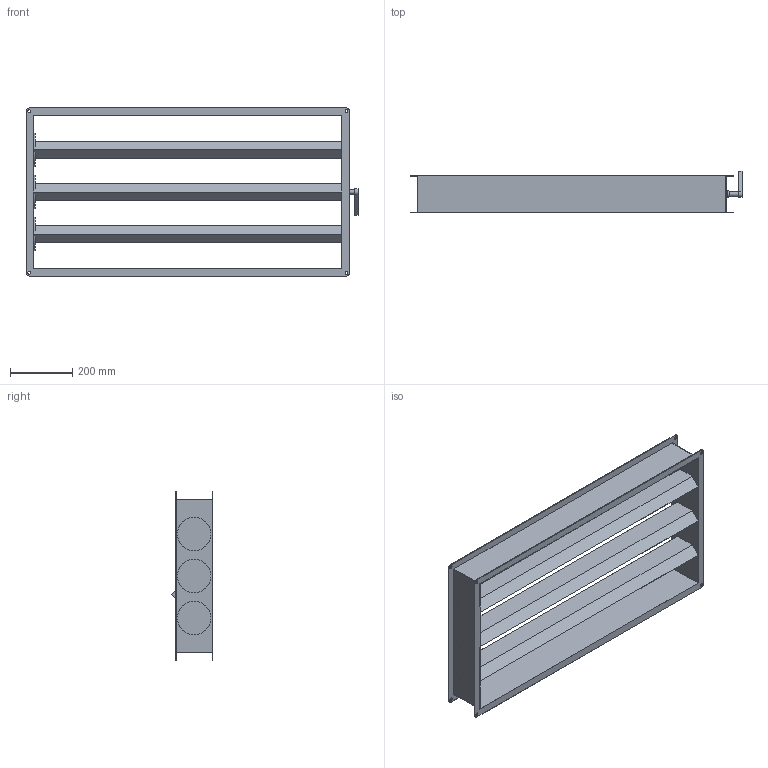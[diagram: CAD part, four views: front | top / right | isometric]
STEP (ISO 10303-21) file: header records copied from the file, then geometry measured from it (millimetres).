
FILE_DESCRIPTION(/* description */ (''),/* implementation_level */ '2;1');
FILE_NAME(/* name */ 'Z:\Output\JVK_100-50-06917-004.stp',/* time_stamp */ '2017-07-11T11:31:07+02:00',/* author */ ('Engineering1'),/* organization */ (''),/* preprocessor_version */ 'ST-DEVELOPER v16.5',/* originating_system */ 'Autodesk Inventor 2017',/* authorisation */ '');
FILE_SCHEMA (('AUTOMOTIVE_DESIGN { 1 0 10303 214 3 1 1 }'));
Length unit declared in the file: millimetre
Products named in the file (1): JVK-1
Bounding box: 1067 x 134.14 x 540 mm (x, y, z)
Volume: 16005507.3 mm3; surface area: 1831715.4 mm2
Topology: 1 solids, 1 shells, 87 faces, 237 edges, 152 vertices
Faces by surface type: plane 57, cylinder 27, bspline 3
Full cylindrical faces by diameter (mm): 9 x8, 14 x1, 20 x3
Entity records: 2754 total; most frequent: CARTESIAN_POINT 537, DIRECTION 446, ORIENTED_EDGE 438, EDGE_CURVE 219, LINE 156, VECTOR 156, VERTEX_POINT 146, AXIS2_PLACEMENT_3D 145
